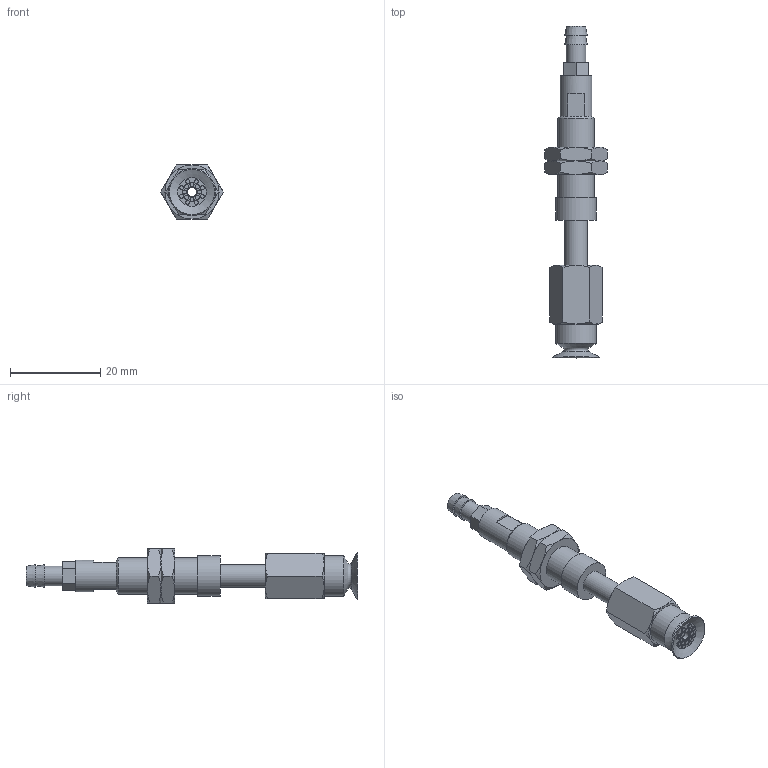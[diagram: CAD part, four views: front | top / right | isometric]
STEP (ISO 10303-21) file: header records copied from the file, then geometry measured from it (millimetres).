
FILE_DESCRIPTION(('STEP AP203'),'1');
FILE_NAME('-T.stp','2025-08-26T08:32:45',(' '),(' '),'Spatial InterOp 3D',' ',' ');
FILE_SCHEMA(('CONFIG_CONTROL_DESIGN'));
Length unit declared in the file: millimetre
Products named in the file (7): BNABPATS-10A-10-※-T; ADAPTER; NAPATS-10A-10--M; NAPATS-10A-10--F; Nut-10A-S; T; BPAG-10A-※_3D
Assembly tree (7 placements, depth 2):
  BNABPATS-10A-10-※-T
    ADAPTER
    NAPATS-10A-10--M
    NAPATS-10A-10--F
    Nut-10A-S  x2
    T
    BPAG-10A-※_3D
Bounding box: 13.86 x 73.5 x 12 mm (x, y, z)
Volume: 3670.7 mm3; surface area: 4521.3 mm2
Topology: 7 solids, 7 shells, 163 faces, 318 edges, 196 vertices
Faces by surface type: plane 69, cone 49, cylinder 35, torus 10
Full cylindrical faces by diameter (mm): 0.9 x16, 2 x3, 3 x1, 4 x2, 4.134 x1, 4.3 x1, 5 x3, 6 x2, 7 x1, 7.188 x2, 8 x1, 9 x2
Entity records: 3766 total; most frequent: CARTESIAN_POINT 802, DIRECTION 572, ORIENTED_EDGE 412, AXIS2_PLACEMENT_3D 266, EDGE_LOOP 234, EDGE_CURVE 206, FACE_OUTER_BOUND 184, VERTEX_POINT 160
